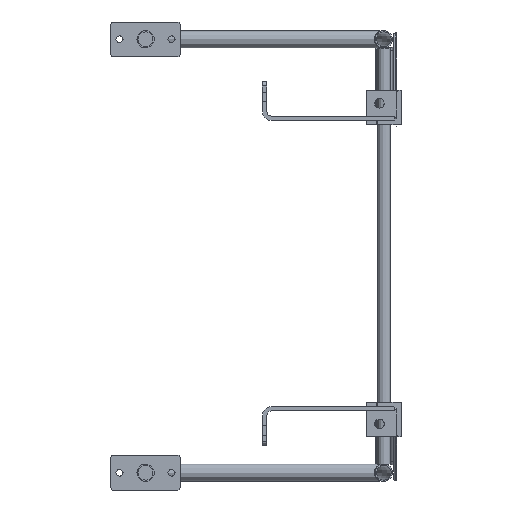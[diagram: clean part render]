
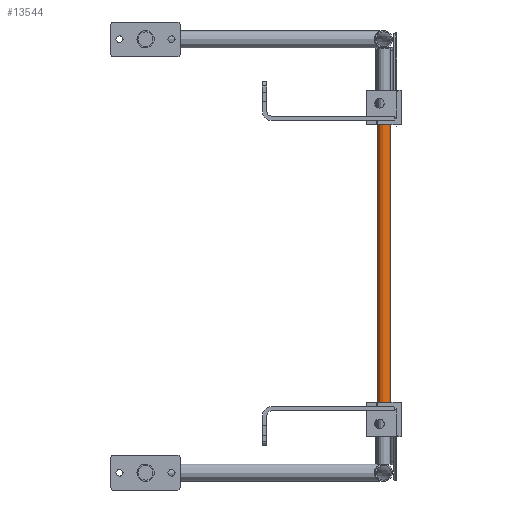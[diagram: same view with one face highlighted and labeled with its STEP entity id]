
A CAD part, front view. The second image highlights one B-rep face of the part: STEP entity #13544.
In plain terms, the highlighted cylindrical face has radius 9.525 mm (diameter 19.05 mm), a full revolution.
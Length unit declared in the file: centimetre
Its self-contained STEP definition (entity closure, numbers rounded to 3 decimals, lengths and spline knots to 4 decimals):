
#2960=FACE_BOUND('',#4733,.T.);
#3637=FACE_OUTER_BOUND('',#4732,.T.);
#4732=EDGE_LOOP('',(#11626));
#4733=EDGE_LOOP('',(#11627));
#5420=CIRCLE('',#14908,0.9525);
#5421=CIRCLE('',#14909,0.9525);
#6604=VERTEX_POINT('',#22478);
#6605=VERTEX_POINT('',#22480);
#8296=EDGE_CURVE('',#6604,#6604,#5420,.T.);
#8297=EDGE_CURVE('',#6605,#6605,#5421,.T.);
#11626=ORIENTED_EDGE('',*,*,#8296,.T.);
#11627=ORIENTED_EDGE('',*,*,#8297,.F.);
#12082=CYLINDRICAL_SURFACE('',#14907,0.9525);
#13544=ADVANCED_FACE('',(#3637,#2960),#12082,.T.);
#14907=AXIS2_PLACEMENT_3D('',#22477,#18556,#18557);
#14908=AXIS2_PLACEMENT_3D('',#22479,#18558,#18559);
#14909=AXIS2_PLACEMENT_3D('',#22481,#18560,#18561);
#18556=DIRECTION('center_axis',(0.,0.,
-1.));
#18557=DIRECTION('ref_axis',(1.,0.,0.));
#18558=DIRECTION('center_axis',(0.,0.,
1.));
#18559=DIRECTION('ref_axis',(1.,0.,0.));
#18560=DIRECTION('center_axis',(0.,0.,
1.));
#18561=DIRECTION('ref_axis',(1.,0.,0.));
#22477=CARTESIAN_POINT('Origin',(17.8587,30.7975,25.4));
#22478=CARTESIAN_POINT('',(16.9062,30.7975,-16.51));
#22479=CARTESIAN_POINT('Origin',(17.8587,30.7975,-16.51));
#22480=CARTESIAN_POINT('',(16.9062,30.7975,25.4));
#22481=CARTESIAN_POINT('Origin',(17.8587,30.7975,25.4));
